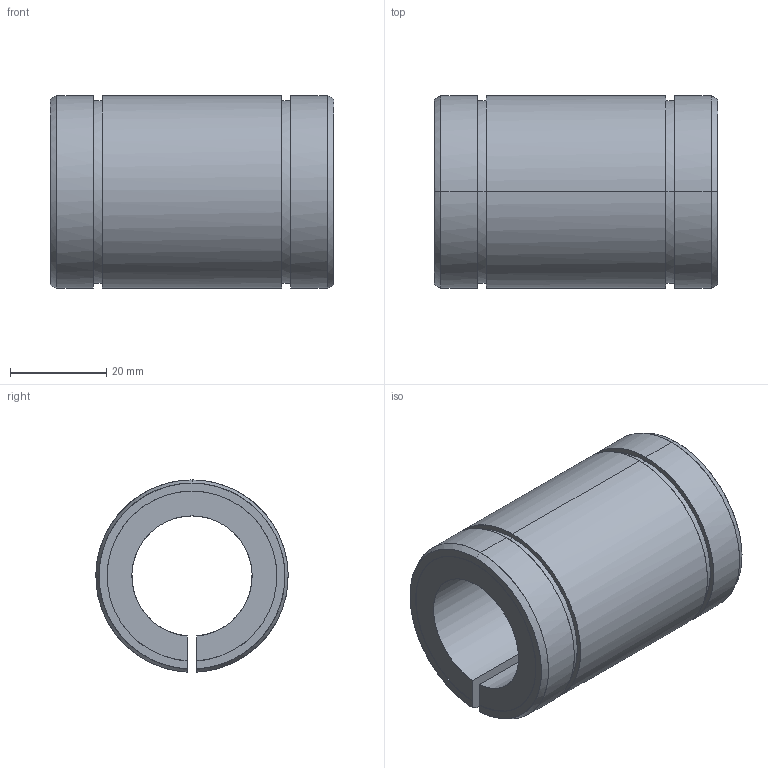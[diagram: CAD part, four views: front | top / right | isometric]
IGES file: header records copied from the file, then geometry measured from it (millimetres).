
Global section: file name: No Iges File Name specified; native system: AutoDesk Inventor R10; preprocessor: AutoDesk Inventor Iges Exporter R10; author: No Author specified; organization: No Organization specified; date: 20101208.100752; units: millimetre
Bounding box: 59 x 39.99 x 39.98 mm (x, y, z)
Surface area: 14525.1 mm2 (no closed solid volume)
Topology: 0 solids, 0 shells, 30 faces, 256 edges, 256 vertices
Faces by surface type: bspline 30
